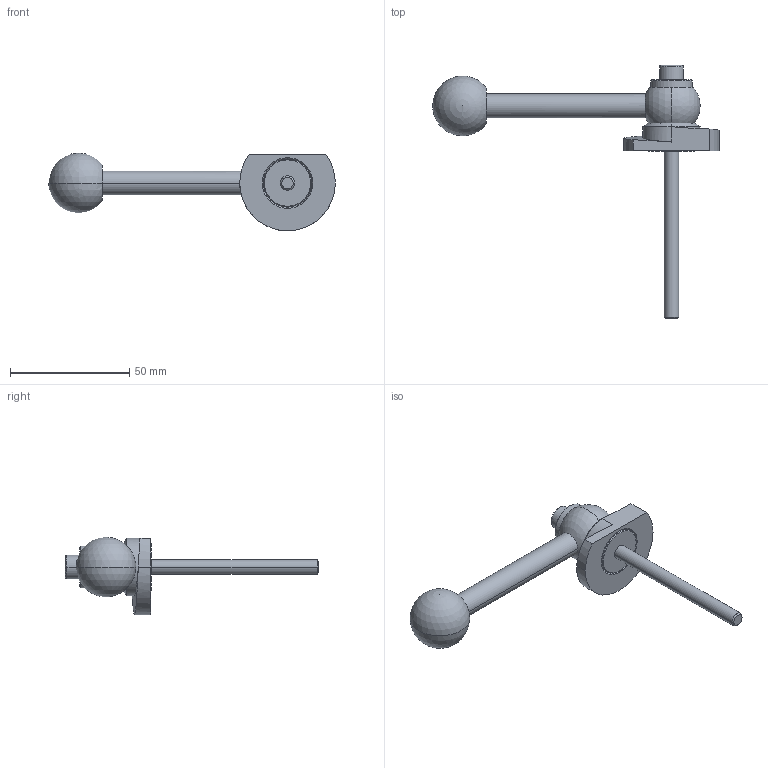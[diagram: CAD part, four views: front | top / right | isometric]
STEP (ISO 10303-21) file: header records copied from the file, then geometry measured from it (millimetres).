
FILE_DESCRIPTION (( 'STEP AP214' ), '1' );
FILE_NAME ('918.1-40-GVS-L-70.step', '2024-05-15T12:59:30', ( '' ), ( '' ), 'SwSTEP 2.0', 'SolidWorks 2022', '' );
FILE_SCHEMA (( 'AUTOMOTIVE_DESIGN' ));
Length unit declared in the file: millimetre
Products named in the file (1): 918.1-40-GVS-L-70
Bounding box: 120 x 106 x 32.5 mm (x, y, z)
Volume: 31487 mm3; surface area: 12058.5 mm2
Topology: 1 solids, 1 shells, 62 faces, 141 edges, 89 vertices
Faces by surface type: plane 20, cylinder 19, cone 14, sphere 4, bspline 3, torus 2
Entity records: 2003 total; most frequent: CARTESIAN_POINT 614, DIRECTION 304, ORIENTED_EDGE 262, EDGE_CURVE 131, AXIS2_PLACEMENT_3D 125, VERTEX_POINT 83, EDGE_LOOP 74, CIRCLE 65
